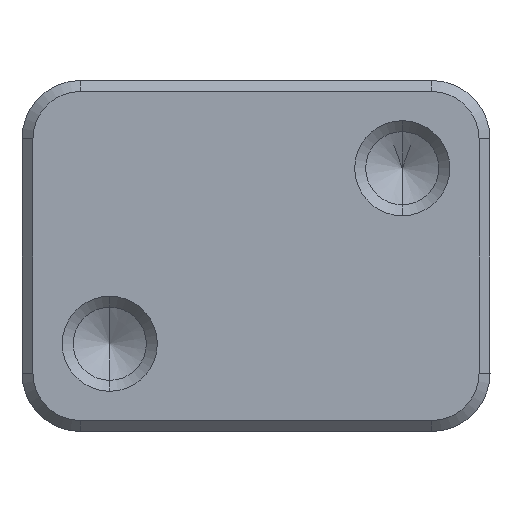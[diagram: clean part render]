
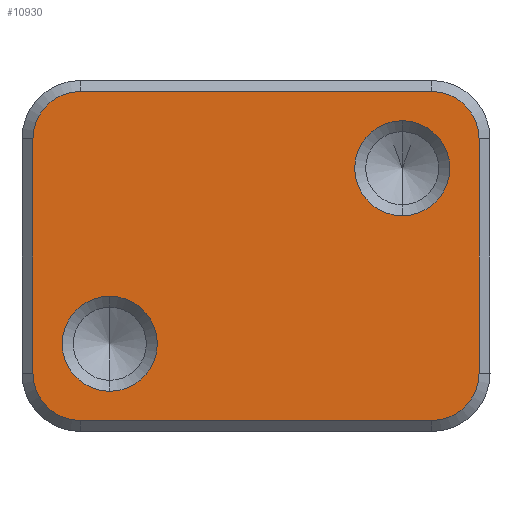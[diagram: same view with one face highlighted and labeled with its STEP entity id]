
A CAD part, front view. The second image highlights one B-rep face of the part: STEP entity #10930.
In plain terms, the highlighted planar face has unit normal (0, -1, 0).
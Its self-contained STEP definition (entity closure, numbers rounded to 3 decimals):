
#380 = CARTESIAN_POINT ( 'NONE',  ( 15.25, 0., -12.006 ) ) ;
#432 = ORIENTED_EDGE ( 'NONE', *, *, #1908, .T. ) ;
#809 = VERTEX_POINT ( 'NONE', #11664 ) ;
#1011 = DIRECTION ( 'NONE',  ( 0., -1., 0. ) ) ;
#1035 = EDGE_CURVE ( 'NONE', #11585, #8858, #10764, .T. ) ;
#1219 = CARTESIAN_POINT ( 'NONE',  ( -16., 0., 11.245 ) ) ;
#1256 = LINE ( 'NONE', #380, #3963 ) ;
#1385 = CIRCLE ( 'NONE', #4858, 3.25 ) ;
#1471 = EDGE_CURVE ( 'NONE', #7509, #6442, #1256, .T. ) ;
#1776 = CARTESIAN_POINT ( 'NONE',  ( 10., 0., 5.995 ) ) ;
#1901 = DIRECTION ( 'NONE',  ( 0., 0., -1. ) ) ;
#1908 = EDGE_CURVE ( 'NONE', #3742, #4537, #11151, .T. ) ;
#1932 = CIRCLE ( 'NONE', #4774, 3.25 ) ;
#2176 = CIRCLE ( 'NONE', #8705, 3.25 ) ;
#2704 = DIRECTION ( 'NONE',  ( -1., 0., 0. ) ) ;
#2867 = DIRECTION ( 'NONE',  ( 0., -1., 0. ) ) ;
#2877 = DIRECTION ( 'NONE',  ( 0., 0., 1. ) ) ;
#2880 = AXIS2_PLACEMENT_3D ( 'NONE', #3406, #8719, #12887 ) ;
#2908 = CARTESIAN_POINT ( 'NONE',  ( -10., 0., -6.006 ) ) ;
#3045 = EDGE_CURVE ( 'NONE', #4537, #3742, #1932, .T. ) ;
#3071 = DIRECTION ( 'NONE',  ( 0., 1., 0. ) ) ;
#3406 = CARTESIAN_POINT ( 'NONE',  ( -10., 0., -6.006 ) ) ;
#3566 = CARTESIAN_POINT ( 'NONE',  ( -16., 0., -11.256 ) ) ;
#3621 = EDGE_CURVE ( 'NONE', #6442, #11585, #4327, .T. ) ;
#3742 = VERTEX_POINT ( 'NONE', #7105 ) ;
#3841 = CARTESIAN_POINT ( 'NONE',  ( -16., 0., -12.006 ) ) ;
#3852 = ORIENTED_EDGE ( 'NONE', *, *, #7541, .T. ) ;
#3963 = VECTOR ( 'NONE', #10801, 1000. ) ;
#4126 = CIRCLE ( 'NONE', #10890, 3.25 ) ;
#4234 = CARTESIAN_POINT ( 'NONE',  ( 15.25, 0., 7.995 ) ) ;
#4327 = CIRCLE ( 'NONE', #12830, 3.25 ) ;
#4492 = EDGE_LOOP ( 'NONE', ( #7719, #3852, #12813, #5977, #13298, #7403, #9385, #11904 ) ) ;
#4537 = VERTEX_POINT ( 'NONE', #12789 ) ;
#4594 = LINE ( 'NONE', #3566, #6591 ) ;
#4605 = VERTEX_POINT ( 'NONE', #8958 ) ;
#4741 = VERTEX_POINT ( 'NONE', #12504 ) ;
#4774 = AXIS2_PLACEMENT_3D ( 'NONE', #2908, #11359, #9174 ) ;
#4858 = AXIS2_PLACEMENT_3D ( 'NONE', #11880, #8731, #12901 ) ;
#4992 = FACE_BOUND ( 'NONE', #7734, .T. ) ;
#5368 = CARTESIAN_POINT ( 'NONE',  ( 10., 0., 9.245 ) ) ;
#5473 = EDGE_CURVE ( 'NONE', #809, #5781, #7548, .T. ) ;
#5493 = CARTESIAN_POINT ( 'NONE',  ( -12., 0., 11.245 ) ) ;
#5781 = VERTEX_POINT ( 'NONE', #7780 ) ;
#5892 = EDGE_LOOP ( 'NONE', ( #13351, #11813 ) ) ;
#5939 = CARTESIAN_POINT ( 'NONE',  ( 12., 0., 7.995 ) ) ;
#5977 = ORIENTED_EDGE ( 'NONE', *, *, #12745, .F. ) ;
#5990 = CARTESIAN_POINT ( 'NONE',  ( 10., 0., 2.745 ) ) ;
#6140 = VERTEX_POINT ( 'NONE', #5990 ) ;
#6318 = DIRECTION ( 'NONE',  ( 0., 0., -1. ) ) ;
#6442 = VERTEX_POINT ( 'NONE', #4234 ) ;
#6591 = VECTOR ( 'NONE', #10864, 1000. ) ;
#6789 = AXIS2_PLACEMENT_3D ( 'NONE', #1776, #8163, #1901 ) ;
#6973 = FACE_OUTER_BOUND ( 'NONE', #4492, .T. ) ;
#7105 = CARTESIAN_POINT ( 'NONE',  ( -10., 0., -2.756 ) ) ;
#7145 = DIRECTION ( 'NONE',  ( 0., 0., 1. ) ) ;
#7220 = DIRECTION ( 'NONE',  ( -1., 0., 0. ) ) ;
#7403 = ORIENTED_EDGE ( 'NONE', *, *, #3621, .T. ) ;
#7410 = CARTESIAN_POINT ( 'NONE',  ( -15.25, 0., -12.006 ) ) ;
#7417 = DIRECTION ( 'NONE',  ( -1., 0., 0. ) ) ;
#7509 = VERTEX_POINT ( 'NONE', #10096 ) ;
#7541 = EDGE_CURVE ( 'NONE', #5781, #4741, #2176, .T. ) ;
#7548 = LINE ( 'NONE', #7410, #9132 ) ;
#7600 = CARTESIAN_POINT ( 'NONE',  ( -12., 0., 7.995 ) ) ;
#7719 = ORIENTED_EDGE ( 'NONE', *, *, #5473, .T. ) ;
#7734 = EDGE_LOOP ( 'NONE', ( #10689, #432 ) ) ;
#7780 = CARTESIAN_POINT ( 'NONE',  ( -15.25, 0., -8.006 ) ) ;
#7882 = CIRCLE ( 'NONE', #13330, 3.25 ) ;
#7965 = EDGE_CURVE ( 'NONE', #8858, #809, #4126, .T. ) ;
#8124 = DIRECTION ( 'NONE',  ( 1., 0., 0. ) ) ;
#8163 = DIRECTION ( 'NONE',  ( 0., 1., 0. ) ) ;
#8297 = CARTESIAN_POINT ( 'NONE',  ( -12., 0., -8.006 ) ) ;
#8346 = VECTOR ( 'NONE', #7417, 1000. ) ;
#8705 = AXIS2_PLACEMENT_3D ( 'NONE', #8297, #2867, #7145 ) ;
#8719 = DIRECTION ( 'NONE',  ( 0., 1., 0. ) ) ;
#8731 = DIRECTION ( 'NONE',  ( 0., 1., 0. ) ) ;
#8858 = VERTEX_POINT ( 'NONE', #5493 ) ;
#8958 = CARTESIAN_POINT ( 'NONE',  ( 12., 0., -11.256 ) ) ;
#9023 = FACE_BOUND ( 'NONE', #5892, .T. ) ;
#9132 = VECTOR ( 'NONE', #6318, 1000. ) ;
#9174 = DIRECTION ( 'NONE',  ( 0., 0., -1. ) ) ;
#9385 = ORIENTED_EDGE ( 'NONE', *, *, #1035, .T. ) ;
#9474 = CARTESIAN_POINT ( 'NONE',  ( 12., 0., -8.006 ) ) ;
#10096 = CARTESIAN_POINT ( 'NONE',  ( 15.25, 0., -8.006 ) ) ;
#10270 = CARTESIAN_POINT ( 'NONE',  ( 12., 0., 11.245 ) ) ;
#10471 = VERTEX_POINT ( 'NONE', #5368 ) ;
#10689 = ORIENTED_EDGE ( 'NONE', *, *, #3045, .T. ) ;
#10764 = LINE ( 'NONE', #1219, #8346 ) ;
#10796 = EDGE_CURVE ( 'NONE', #4605, #4741, #4594, .T. ) ;
#10801 = DIRECTION ( 'NONE',  ( 0., 0., 1. ) ) ;
#10813 = DIRECTION ( 'NONE',  ( 0., -1., 0. ) ) ;
#10864 = DIRECTION ( 'NONE',  ( -1., 0., 0. ) ) ;
#10890 = AXIS2_PLACEMENT_3D ( 'NONE', #7600, #10813, #2704 ) ;
#10930 = ADVANCED_FACE ( 'NONE', ( #4992, #6973, #9023 ), #13315, .T. ) ;
#11084 = EDGE_CURVE ( 'NONE', #10471, #6140, #1385, .T. ) ;
#11151 = CIRCLE ( 'NONE', #2880, 3.25 ) ;
#11268 = DIRECTION ( 'NONE',  ( 0., -1., 0. ) ) ;
#11359 = DIRECTION ( 'NONE',  ( 0., 1., 0. ) ) ;
#11585 = VERTEX_POINT ( 'NONE', #10270 ) ;
#11664 = CARTESIAN_POINT ( 'NONE',  ( -15.25, 0., 7.995 ) ) ;
#11807 = CIRCLE ( 'NONE', #6789, 3.25 ) ;
#11813 = ORIENTED_EDGE ( 'NONE', *, *, #11084, .T. ) ;
#11880 = CARTESIAN_POINT ( 'NONE',  ( 10., 0., 5.995 ) ) ;
#11904 = ORIENTED_EDGE ( 'NONE', *, *, #7965, .T. ) ;
#12504 = CARTESIAN_POINT ( 'NONE',  ( -12., 0., -11.256 ) ) ;
#12745 = EDGE_CURVE ( 'NONE', #7509, #4605, #7882, .T. ) ;
#12789 = CARTESIAN_POINT ( 'NONE',  ( -10., 0., -9.256 ) ) ;
#12813 = ORIENTED_EDGE ( 'NONE', *, *, #10796, .F. ) ;
#12830 = AXIS2_PLACEMENT_3D ( 'NONE', #5939, #1011, #2877 ) ;
#12887 = DIRECTION ( 'NONE',  ( 0., 0., -1. ) ) ;
#12901 = DIRECTION ( 'NONE',  ( 0., 0., -1. ) ) ;
#12910 = EDGE_CURVE ( 'NONE', #6140, #10471, #11807, .T. ) ;
#12919 = AXIS2_PLACEMENT_3D ( 'NONE', #3841, #11268, #8124 ) ;
#13298 = ORIENTED_EDGE ( 'NONE', *, *, #1471, .T. ) ;
#13315 = PLANE ( 'NONE',  #12919 ) ;
#13330 = AXIS2_PLACEMENT_3D ( 'NONE', #9474, #3071, #7220 ) ;
#13351 = ORIENTED_EDGE ( 'NONE', *, *, #12910, .T. ) ;
